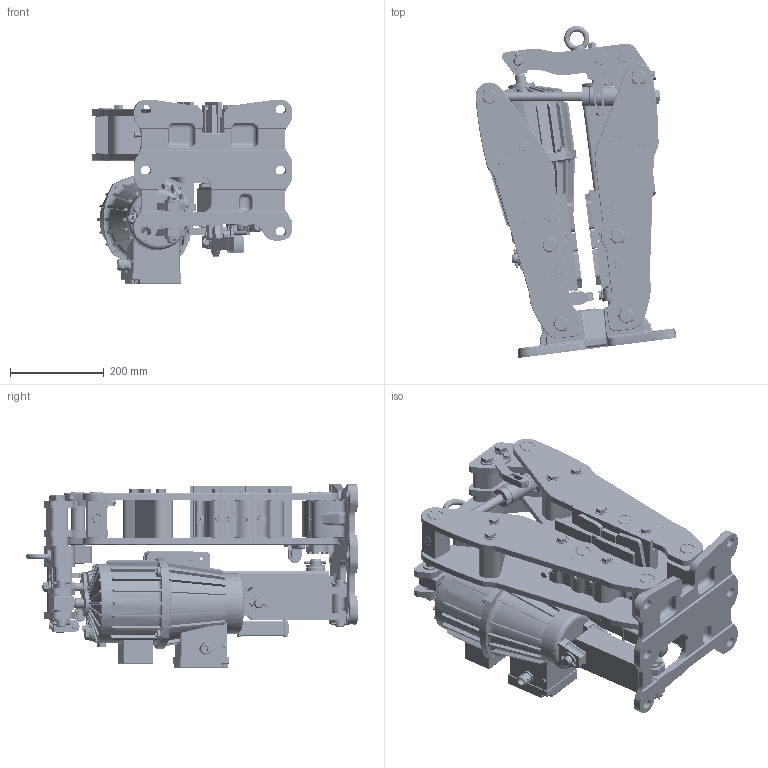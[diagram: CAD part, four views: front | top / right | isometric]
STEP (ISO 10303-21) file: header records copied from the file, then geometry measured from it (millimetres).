
FILE_DESCRIPTION((''),'2;1');
FILE_NAME('DX_230_FEA_BASE_1','2025-03-03T14:13:44',('FRMA'),(''),'CREO PARAMETRIC BY PTC INC, 2022364','CREO PARAMETRIC BY PTC INC, 2022364','');
FILE_SCHEMA(('CONFIG_CONTROL_DESIGN','SHAPE_APPEARANCE_LAYERS_GROUPS'));
Products named in the file (1): DX_230_FEA_BASE_1
Bounding box: 428.21 x 707.28 x 393 mm (x, y, z)
Volume: 15437680.2 mm3; surface area: 3149052.1 mm2
Topology: 1 solids, 272 shells, 10787 faces, 29302 edges, 19192 vertices
Faces by surface type: plane 5290, cylinder 2989, cone 1356, torus 774, bspline 280, extrusion 60, sphere 38
Entity records: 568591 total; most frequent: CARTESIAN_POINT 112603, ORIENTED_EDGE 57514, DIRECTION 55575, PRESENTATION_STYLE_ASSIGNMENT 39530, STYLED_ITEM 29389, CURVE_STYLE 29236, EDGE_CURVE 29176, AXIS2_PLACEMENT_3D 20610
